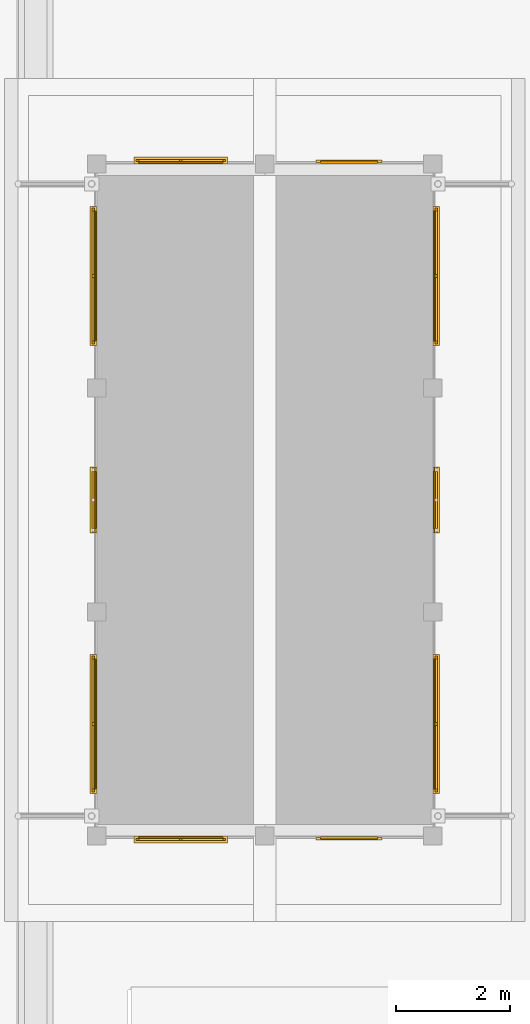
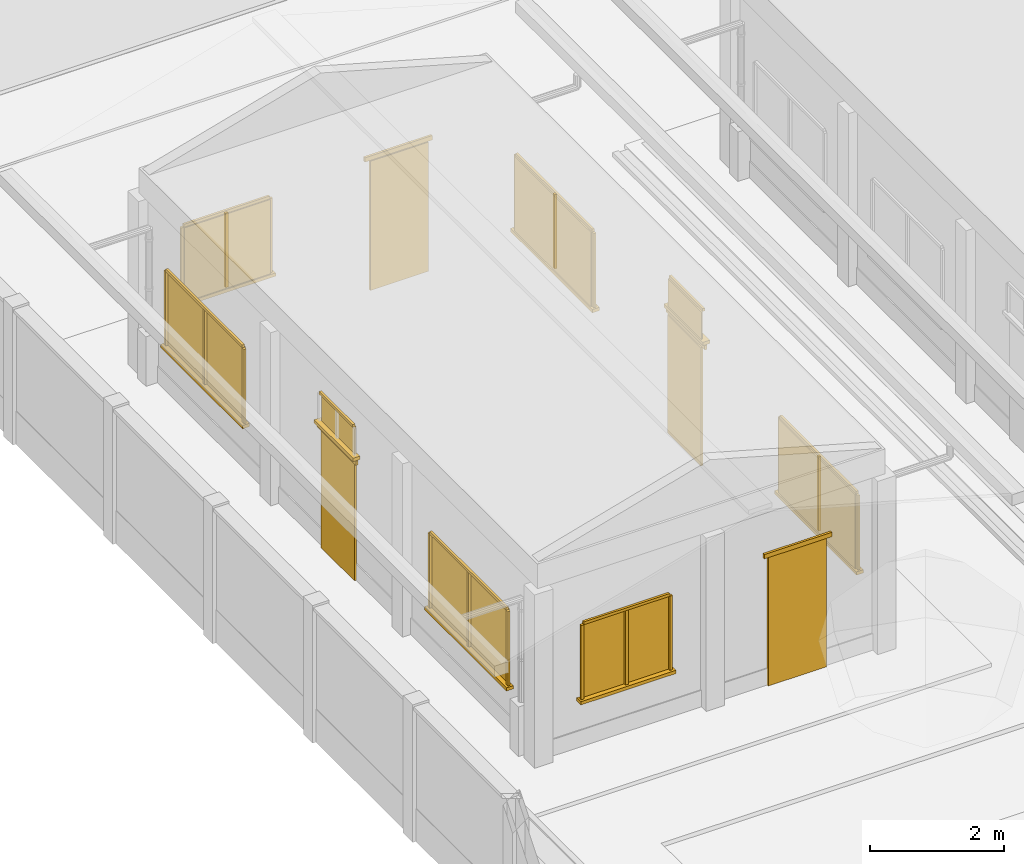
# One storey, part 55 of 177: 42 windows, 8 doors.
"""IFC4 building model written with IfcOpenShell, lengths in metres."""

from ifc_helpers import new_model, si_unit, origin, origin_with_axes, place, context, subcontext, project, spatial, triangles, element, save


model = new_model("IFC4")

# Units and contexts
model_context = context("Model", 3, precision=1e-05, world=origin_with_axes())
body_context = subcontext(model_context, "Body", "Model", "MODEL_VIEW")
ifc_project = project(units=[si_unit("LENGTHUNIT", "METRE"), si_unit("AREAUNIT", "SQUARE_METRE"), si_unit("VOLUMEUNIT", "CUBIC_METRE"), si_unit("PLANEANGLEUNIT", "RADIAN")], contexts=[model_context])

# Site, building, storey
site_placement = place(None, origin_with_axes())
site = spatial("IfcSite", under=ifc_project, at=site_placement, Name="Predio Los Mangos - Morales, San Martín", CompositionType="ELEMENT")
building_placement = place(site_placement, origin())
building = spatial("IfcBuilding", under=site, at=building_placement, Name="Hogar de Refugio Temporal", CompositionType="ELEMENT")
storey_placement = place(building_placement, origin())
storey = spatial("IfcBuildingStorey", under=building, at=storey_placement, Name="NIVEL 1 (NPT +0.00)", CompositionType="ELEMENT", Elevation=0.0)

# Windows
window_1_placement = place(storey_placement, origin())
element("IfcWindow", 1, at=window_1_placement, inside=storey, Name="E-09_vg0_vid", ObjectType="Ventana", PredefinedType="WINDOW", context=body_context, shape_type="Tessellation", body=[
    triangles([(4.2375, 75.16, 1.05), (5.7125, 75.16, 1.05), (5.7125, 75.18, 1.05), (4.2375, 75.18, 1.05), (4.2375, 75.16, 2.4), (5.7125, 75.16, 2.4), (5.7125, 75.18, 2.4), (4.2375, 75.18, 2.4)], [[1, 4, 3], [1, 3, 2], [5, 6, 7], [5, 7, 8], [1, 2, 6], [1, 6, 5], [2, 3, 7], [2, 7, 6], [3, 4, 8], [3, 8, 7], [4, 1, 5], [4, 5, 8]]),
])
window_2_placement = place(storey_placement, origin())
element("IfcWindow", 2, at=window_2_placement, inside=storey, Name="E-09_vg0_m", ObjectType="Ventana", PredefinedType="WINDOW", context=body_context, shape_type="Tessellation", body=[
    triangles([(4.1875, 75.12, 1.05), (4.2375, 75.12, 1.05), (4.2375, 75.16, 1.05), (4.1875, 75.16, 1.05), (4.1875, 75.12, 2.4), (4.2375, 75.12, 2.4), (4.2375, 75.16, 2.4), (4.1875, 75.16, 2.4)], [[1, 4, 3], [1, 3, 2], [5, 6, 7], [5, 7, 8], [1, 2, 6], [1, 6, 5], [2, 3, 7], [2, 7, 6], [3, 4, 8], [3, 8, 7], [4, 1, 5], [4, 5, 8]]),
])
window_3_placement = place(storey_placement, origin())
element("IfcWindow", 3, at=window_3_placement, inside=storey, Name="E-09_vg0_m", ObjectType="Ventana", PredefinedType="WINDOW", context=body_context, shape_type="Tessellation", body=[
    triangles([(5.7125, 75.12, 1.05), (5.7625, 75.12, 1.05), (5.7625, 75.16, 1.05), (5.7125, 75.16, 1.05), (5.7125, 75.12, 2.4), (5.7625, 75.12, 2.4), (5.7625, 75.16, 2.4), (5.7125, 75.16, 2.4)], [[1, 4, 3], [1, 3, 2], [5, 6, 7], [5, 7, 8], [1, 2, 6], [1, 6, 5], [2, 3, 7], [2, 7, 6], [3, 4, 8], [3, 8, 7], [4, 1, 5], [4, 5, 8]]),
])
window_4_placement = place(storey_placement, origin())
element("IfcWindow", 4, at=window_4_placement, inside=storey, Name="E-09_vg0_m", ObjectType="Ventana", PredefinedType="WINDOW", context=body_context, shape_type="Tessellation", body=[
    triangles([(4.2375, 75.12, 2.4), (5.7125, 75.12, 2.4), (5.7125, 75.16, 2.4), (4.2375, 75.16, 2.4), (4.2375, 75.12, 2.45), (5.7125, 75.12, 2.45), (5.7125, 75.16, 2.45), (4.2375, 75.16, 2.45)], [[1, 4, 3], [1, 3, 2], [5, 6, 7], [5, 7, 8], [1, 2, 6], [1, 6, 5], [2, 3, 7], [2, 7, 6], [3, 4, 8], [3, 8, 7], [4, 1, 5], [4, 5, 8]]),
])
window_5_placement = place(storey_placement, origin())
element("IfcWindow", 5, at=window_5_placement, inside=storey, Name="E-09_vg0_m", ObjectType="Ventana", PredefinedType="WINDOW", context=body_context, shape_type="Tessellation", body=[
    triangles([(4.95, 75.12, 1.05), (5.0, 75.12, 1.05), (5.0, 75.16, 1.05), (4.95, 75.16, 1.05), (4.95, 75.12, 2.4), (5.0, 75.12, 2.4), (5.0, 75.16, 2.4), (4.95, 75.16, 2.4)], [[1, 4, 3], [1, 3, 2], [5, 6, 7], [5, 7, 8], [1, 2, 6], [1, 6, 5], [2, 3, 7], [2, 7, 6], [3, 4, 8], [3, 8, 7], [4, 1, 5], [4, 5, 8]]),
])
window_6_placement = place(storey_placement, origin())
element("IfcWindow", 6, at=window_6_placement, inside=storey, Name="E-09_vg0_alf", ObjectType="Ventana", PredefinedType="WINDOW", context=body_context, shape_type="Tessellation", body=[
    triangles([(4.1575, 75.2, 0.99), (5.7925, 75.2, 0.99), (5.7925, 75.08, 0.99), (4.1575, 75.08, 0.99), (4.1575, 75.2, 1.05), (5.7925, 75.2, 1.05), (5.7925, 75.08, 1.05), (4.1575, 75.08, 1.05)], [[1, 4, 3], [1, 3, 2], [5, 6, 7], [5, 7, 8], [1, 2, 6], [1, 6, 5], [2, 3, 7], [2, 7, 6], [3, 4, 8], [3, 8, 7], [4, 1, 5], [4, 5, 8]]),
])

# Doors
door_1_placement = place(storey_placement, origin())
element("IfcDoor", 7, at=door_1_placement, inside=storey, Name="E-09_pp", ObjectType="Puerta", PredefinedType="DOOR", context=body_context, shape_type="Tessellation", body=[
    triangles([(7.425, 75.15, 0.15), (8.425, 75.15, 0.15), (8.425, 75.19, 0.15), (7.425, 75.19, 0.15), (7.425, 75.15, 2.5), (8.425, 75.15, 2.5), (8.425, 75.19, 2.5), (7.425, 75.19, 2.5)], [[1, 4, 3], [1, 3, 2], [5, 6, 7], [5, 7, 8], [1, 2, 6], [1, 6, 5], [2, 3, 7], [2, 7, 6], [3, 4, 8], [3, 8, 7], [4, 1, 5], [4, 5, 8]]),
])
door_2_placement = place(storey_placement, origin())
element("IfcDoor", 8, at=door_2_placement, inside=storey, Name="E-09_pp_marco", ObjectType="Puerta", PredefinedType="DOOR", context=body_context, shape_type="Tessellation", body=[
    triangles([(7.345, 75.13, 2.5), (8.505, 75.13, 2.5), (8.505, 75.17, 2.5), (7.345, 75.17, 2.5), (7.345, 75.13, 2.58), (8.505, 75.13, 2.58), (8.505, 75.17, 2.58), (7.345, 75.17, 2.58)], [[1, 4, 3], [1, 3, 2], [5, 6, 7], [5, 7, 8], [1, 2, 6], [1, 6, 5], [2, 3, 7], [2, 7, 6], [3, 4, 8], [3, 8, 7], [4, 1, 5], [4, 5, 8]]),
])

# Windows
window_7_placement = place(storey_placement, origin())
element("IfcWindow", 9, at=window_7_placement, inside=storey, Name="E-09_vg0_vid", ObjectType="Ventana", PredefinedType="WINDOW", context=body_context, shape_type="Tessellation", body=[
    triangles([(4.2375, 87.02, 1.05), (5.7125, 87.02, 1.05), (5.7125, 87.04, 1.05), (4.2375, 87.04, 1.05), (4.2375, 87.02, 2.4), (5.7125, 87.02, 2.4), (5.7125, 87.04, 2.4), (4.2375, 87.04, 2.4)], [[1, 4, 3], [1, 3, 2], [5, 6, 7], [5, 7, 8], [1, 2, 6], [1, 6, 5], [2, 3, 7], [2, 7, 6], [3, 4, 8], [3, 8, 7], [4, 1, 5], [4, 5, 8]]),
])
window_8_placement = place(storey_placement, origin())
element("IfcWindow", 10, at=window_8_placement, inside=storey, Name="E-09_vg0_m", ObjectType="Ventana", PredefinedType="WINDOW", context=body_context, shape_type="Tessellation", body=[
    triangles([(4.1875, 87.04, 1.05), (4.2375, 87.04, 1.05), (4.2375, 87.08, 1.05), (4.1875, 87.08, 1.05), (4.1875, 87.04, 2.4), (4.2375, 87.04, 2.4), (4.2375, 87.08, 2.4), (4.1875, 87.08, 2.4)], [[1, 4, 3], [1, 3, 2], [5, 6, 7], [5, 7, 8], [1, 2, 6], [1, 6, 5], [2, 3, 7], [2, 7, 6], [3, 4, 8], [3, 8, 7], [4, 1, 5], [4, 5, 8]]),
])
window_9_placement = place(storey_placement, origin())
element("IfcWindow", 11, at=window_9_placement, inside=storey, Name="E-09_vg0_m", ObjectType="Ventana", PredefinedType="WINDOW", context=body_context, shape_type="Tessellation", body=[
    triangles([(5.7125, 87.04, 1.05), (5.7625, 87.04, 1.05), (5.7625, 87.08, 1.05), (5.7125, 87.08, 1.05), (5.7125, 87.04, 2.4), (5.7625, 87.04, 2.4), (5.7625, 87.08, 2.4), (5.7125, 87.08, 2.4)], [[1, 4, 3], [1, 3, 2], [5, 6, 7], [5, 7, 8], [1, 2, 6], [1, 6, 5], [2, 3, 7], [2, 7, 6], [3, 4, 8], [3, 8, 7], [4, 1, 5], [4, 5, 8]]),
])
window_10_placement = place(storey_placement, origin())
element("IfcWindow", 12, at=window_10_placement, inside=storey, Name="E-09_vg0_m", ObjectType="Ventana", PredefinedType="WINDOW", context=body_context, shape_type="Tessellation", body=[
    triangles([(4.2375, 87.04, 2.4), (5.7125, 87.04, 2.4), (5.7125, 87.08, 2.4), (4.2375, 87.08, 2.4), (4.2375, 87.04, 2.45), (5.7125, 87.04, 2.45), (5.7125, 87.08, 2.45), (4.2375, 87.08, 2.45)], [[1, 4, 3], [1, 3, 2], [5, 6, 7], [5, 7, 8], [1, 2, 6], [1, 6, 5], [2, 3, 7], [2, 7, 6], [3, 4, 8], [3, 8, 7], [4, 1, 5], [4, 5, 8]]),
])
window_11_placement = place(storey_placement, origin())
element("IfcWindow", 13, at=window_11_placement, inside=storey, Name="E-09_vg0_m", ObjectType="Ventana", PredefinedType="WINDOW", context=body_context, shape_type="Tessellation", body=[
    triangles([(4.95, 87.04, 1.05), (5.0, 87.04, 1.05), (5.0, 87.08, 1.05), (4.95, 87.08, 1.05), (4.95, 87.04, 2.4), (5.0, 87.04, 2.4), (5.0, 87.08, 2.4), (4.95, 87.08, 2.4)], [[1, 4, 3], [1, 3, 2], [5, 6, 7], [5, 7, 8], [1, 2, 6], [1, 6, 5], [2, 3, 7], [2, 7, 6], [3, 4, 8], [3, 8, 7], [4, 1, 5], [4, 5, 8]]),
])
window_12_placement = place(storey_placement, origin())
element("IfcWindow", 14, at=window_12_placement, inside=storey, Name="E-09_vg0_alf", ObjectType="Ventana", PredefinedType="WINDOW", context=body_context, shape_type="Tessellation", body=[
    triangles([(4.1575, 87.0, 0.99), (5.7925, 87.0, 0.99), (5.7925, 87.12, 0.99), (4.1575, 87.12, 0.99), (4.1575, 87.0, 1.05), (5.7925, 87.0, 1.05), (5.7925, 87.12, 1.05), (4.1575, 87.12, 1.05)], [[1, 4, 3], [1, 3, 2], [5, 6, 7], [5, 7, 8], [1, 2, 6], [1, 6, 5], [2, 3, 7], [2, 7, 6], [3, 4, 8], [3, 8, 7], [4, 1, 5], [4, 5, 8]]),
])

# Doors
door_3_placement = place(storey_placement, origin())
element("IfcDoor", 15, at=door_3_placement, inside=storey, Name="E-09_pp", ObjectType="Puerta", PredefinedType="DOOR", context=body_context, shape_type="Tessellation", body=[
    triangles([(7.425, 87.01, 0.15), (8.425, 87.01, 0.15), (8.425, 87.05, 0.15), (7.425, 87.05, 0.15), (7.425, 87.01, 2.5), (8.425, 87.01, 2.5), (8.425, 87.05, 2.5), (7.425, 87.05, 2.5)], [[1, 4, 3], [1, 3, 2], [5, 6, 7], [5, 7, 8], [1, 2, 6], [1, 6, 5], [2, 3, 7], [2, 7, 6], [3, 4, 8], [3, 8, 7], [4, 1, 5], [4, 5, 8]]),
])
door_4_placement = place(storey_placement, origin())
element("IfcDoor", 16, at=door_4_placement, inside=storey, Name="E-09_pp_marco", ObjectType="Puerta", PredefinedType="DOOR", context=body_context, shape_type="Tessellation", body=[
    triangles([(7.345, 87.03, 2.5), (8.505, 87.03, 2.5), (8.505, 87.07, 2.5), (7.345, 87.07, 2.5), (7.345, 87.03, 2.58), (8.505, 87.03, 2.58), (8.505, 87.07, 2.58), (7.345, 87.07, 2.58)], [[1, 4, 3], [1, 3, 2], [5, 6, 7], [5, 7, 8], [1, 2, 6], [1, 6, 5], [2, 3, 7], [2, 7, 6], [3, 4, 8], [3, 8, 7], [4, 1, 5], [4, 5, 8]]),
])

# Windows
window_13_placement = place(storey_placement, origin())
element("IfcWindow", 17, at=window_13_placement, inside=storey, Name="E-09_v0_vid", ObjectType="Ventana", PredefinedType="WINDOW", context=body_context, shape_type="Tessellation", body=[
    triangles([(3.46, 76.026, 1.05), (3.48, 76.026, 1.05), (3.48, 78.3073, 1.05), (3.46, 78.3073, 1.05), (3.46, 76.026, 2.4), (3.48, 76.026, 2.4), (3.48, 78.3073, 2.4), (3.46, 78.3073, 2.4)], [[1, 4, 3], [1, 3, 2], [5, 6, 7], [5, 7, 8], [1, 2, 6], [1, 6, 5], [2, 3, 7], [2, 7, 6], [3, 4, 8], [3, 8, 7], [4, 1, 5], [4, 5, 8]]),
])
window_14_placement = place(storey_placement, origin())
element("IfcWindow", 18, at=window_14_placement, inside=storey, Name="E-09_v0_m", ObjectType="Ventana", PredefinedType="WINDOW", context=body_context, shape_type="Tessellation", body=[
    triangles([(3.42, 75.976, 1.05), (3.46, 75.976, 1.05), (3.46, 76.026, 1.05), (3.42, 76.026, 1.05), (3.42, 75.976, 2.4), (3.46, 75.976, 2.4), (3.46, 76.026, 2.4), (3.42, 76.026, 2.4)], [[1, 4, 3], [1, 3, 2], [5, 6, 7], [5, 7, 8], [1, 2, 6], [1, 6, 5], [2, 3, 7], [2, 7, 6], [3, 4, 8], [3, 8, 7], [4, 1, 5], [4, 5, 8]]),
])
window_15_placement = place(storey_placement, origin())
element("IfcWindow", 19, at=window_15_placement, inside=storey, Name="E-09_v0_m", ObjectType="Ventana", PredefinedType="WINDOW", context=body_context, shape_type="Tessellation", body=[
    triangles([(3.42, 78.3073, 1.05), (3.46, 78.3073, 1.05), (3.46, 78.3573, 1.05), (3.42, 78.3573, 1.05), (3.42, 78.3073, 2.4), (3.46, 78.3073, 2.4), (3.46, 78.3573, 2.4), (3.42, 78.3573, 2.4)], [[1, 4, 3], [1, 3, 2], [5, 6, 7], [5, 7, 8], [1, 2, 6], [1, 6, 5], [2, 3, 7], [2, 7, 6], [3, 4, 8], [3, 8, 7], [4, 1, 5], [4, 5, 8]]),
])
window_16_placement = place(storey_placement, origin())
element("IfcWindow", 20, at=window_16_placement, inside=storey, Name="E-09_v0_m", ObjectType="Ventana", PredefinedType="WINDOW", context=body_context, shape_type="Tessellation", body=[
    triangles([(3.42, 76.026, 2.4), (3.46, 76.026, 2.4), (3.46, 78.3073, 2.4), (3.42, 78.3073, 2.4), (3.42, 76.026, 2.45), (3.46, 76.026, 2.45), (3.46, 78.3073, 2.45), (3.42, 78.3073, 2.45)], [[1, 4, 3], [1, 3, 2], [5, 6, 7], [5, 7, 8], [1, 2, 6], [1, 6, 5], [2, 3, 7], [2, 7, 6], [3, 4, 8], [3, 8, 7], [4, 1, 5], [4, 5, 8]]),
])
window_17_placement = place(storey_placement, origin())
element("IfcWindow", 21, at=window_17_placement, inside=storey, Name="E-09_v0_m", ObjectType="Ventana", PredefinedType="WINDOW", context=body_context, shape_type="Tessellation", body=[
    triangles([(3.42, 77.1417, 1.05), (3.46, 77.1417, 1.05), (3.46, 77.1917, 1.05), (3.42, 77.1917, 1.05), (3.42, 77.1417, 2.4), (3.46, 77.1417, 2.4), (3.46, 77.1917, 2.4), (3.42, 77.1917, 2.4)], [[1, 4, 3], [1, 3, 2], [5, 6, 7], [5, 7, 8], [1, 2, 6], [1, 6, 5], [2, 3, 7], [2, 7, 6], [3, 4, 8], [3, 8, 7], [4, 1, 5], [4, 5, 8]]),
])
window_18_placement = place(storey_placement, origin())
element("IfcWindow", 22, at=window_18_placement, inside=storey, Name="E-09_v0_alf", ObjectType="Ventana", PredefinedType="WINDOW", context=body_context, shape_type="Tessellation", body=[
    triangles([(3.5, 75.946, 0.99), (3.38, 75.946, 0.99), (3.38, 78.3873, 0.99), (3.5, 78.3873, 0.99), (3.5, 75.946, 1.05), (3.38, 75.946, 1.05), (3.38, 78.3873, 1.05), (3.5, 78.3873, 1.05)], [[1, 4, 3], [1, 3, 2], [5, 6, 7], [5, 7, 8], [1, 2, 6], [1, 6, 5], [2, 3, 7], [2, 7, 6], [3, 4, 8], [3, 8, 7], [4, 1, 5], [4, 5, 8]]),
])

# Doors
door_5_placement = place(storey_placement, origin())
element("IfcDoor", 23, at=door_5_placement, inside=storey, Name="E-09_p1", ObjectType="Puerta", PredefinedType="DOOR", context=body_context, shape_type="Tessellation", body=[
    triangles([(3.45, 80.6, 0.15), (3.49, 80.6, 0.15), (3.49, 81.6, 0.15), (3.45, 81.6, 0.15), (3.45, 80.6, 2.3), (3.49, 80.6, 2.3), (3.49, 81.6, 2.3), (3.45, 81.6, 2.3)], [[1, 4, 3], [1, 3, 2], [5, 6, 7], [5, 7, 8], [1, 2, 6], [1, 6, 5], [2, 3, 7], [2, 7, 6], [3, 4, 8], [3, 8, 7], [4, 1, 5], [4, 5, 8]]),
])
door_6_placement = place(storey_placement, origin())
element("IfcDoor", 24, at=door_6_placement, inside=storey, Name="E-09_p1_marco", ObjectType="Puerta", PredefinedType="DOOR", context=body_context, shape_type="Tessellation", body=[
    triangles([(3.43, 80.52, 2.3), (3.47, 80.52, 2.3), (3.47, 81.68, 2.3), (3.43, 81.68, 2.3), (3.43, 80.52, 2.38), (3.47, 80.52, 2.38), (3.47, 81.68, 2.38), (3.43, 81.68, 2.38)], [[1, 4, 3], [1, 3, 2], [5, 6, 7], [5, 7, 8], [1, 2, 6], [1, 6, 5], [2, 3, 7], [2, 7, 6], [3, 4, 8], [3, 8, 7], [4, 1, 5], [4, 5, 8]]),
])

# Windows
window_19_placement = place(storey_placement, origin())
element("IfcWindow", 25, at=window_19_placement, inside=storey, Name="E-09_vt1_vid", ObjectType="Ventana", PredefinedType="WINDOW", context=body_context, shape_type="Tessellation", body=[
    triangles([(3.46, 80.6, 2.45), (3.48, 80.6, 2.45), (3.48, 81.6, 2.45), (3.46, 81.6, 2.45), (3.46, 80.6, 2.95), (3.48, 80.6, 2.95), (3.48, 81.6, 2.95), (3.46, 81.6, 2.95)], [[1, 4, 3], [1, 3, 2], [5, 6, 7], [5, 7, 8], [1, 2, 6], [1, 6, 5], [2, 3, 7], [2, 7, 6], [3, 4, 8], [3, 8, 7], [4, 1, 5], [4, 5, 8]]),
])
window_20_placement = place(storey_placement, origin())
element("IfcWindow", 26, at=window_20_placement, inside=storey, Name="E-09_vt1_m", ObjectType="Ventana", PredefinedType="WINDOW", context=body_context, shape_type="Tessellation", body=[
    triangles([(3.42, 80.6, 2.95), (3.46, 80.6, 2.95), (3.46, 81.6, 2.95), (3.42, 81.6, 2.95), (3.42, 80.6, 3.0), (3.46, 80.6, 3.0), (3.46, 81.6, 3.0), (3.42, 81.6, 3.0)], [[1, 4, 3], [1, 3, 2], [5, 6, 7], [5, 7, 8], [1, 2, 6], [1, 6, 5], [2, 3, 7], [2, 7, 6], [3, 4, 8], [3, 8, 7], [4, 1, 5], [4, 5, 8]]),
])
window_21_placement = place(storey_placement, origin())
element("IfcWindow", 27, at=window_21_placement, inside=storey, Name="E-09_vt1_alf", ObjectType="Ventana", PredefinedType="WINDOW", context=body_context, shape_type="Tessellation", body=[
    triangles([(3.5, 80.52, 2.39), (3.38, 80.52, 2.39), (3.38, 81.68, 2.39), (3.5, 81.68, 2.39), (3.5, 80.52, 2.45), (3.38, 80.52, 2.45), (3.38, 81.68, 2.45), (3.5, 81.68, 2.45)], [[1, 4, 3], [1, 3, 2], [5, 6, 7], [5, 7, 8], [1, 2, 6], [1, 6, 5], [2, 3, 7], [2, 7, 6], [3, 4, 8], [3, 8, 7], [4, 1, 5], [4, 5, 8]]),
])
window_22_placement = place(storey_placement, origin())
element("IfcWindow", 28, at=window_22_placement, inside=storey, Name="E-09_v2_vid", ObjectType="Ventana", PredefinedType="WINDOW", context=body_context, shape_type="Tessellation", body=[
    triangles([(3.46, 83.8927, 1.05), (3.48, 83.8927, 1.05), (3.48, 86.174, 1.05), (3.46, 86.174, 1.05), (3.46, 83.8927, 2.4), (3.48, 83.8927, 2.4), (3.48, 86.174, 2.4), (3.46, 86.174, 2.4)], [[1, 4, 3], [1, 3, 2], [5, 6, 7], [5, 7, 8], [1, 2, 6], [1, 6, 5], [2, 3, 7], [2, 7, 6], [3, 4, 8], [3, 8, 7], [4, 1, 5], [4, 5, 8]]),
])
window_23_placement = place(storey_placement, origin())
element("IfcWindow", 29, at=window_23_placement, inside=storey, Name="E-09_v2_m", ObjectType="Ventana", PredefinedType="WINDOW", context=body_context, shape_type="Tessellation", body=[
    triangles([(3.42, 83.8427, 1.05), (3.46, 83.8427, 1.05), (3.46, 83.8927, 1.05), (3.42, 83.8927, 1.05), (3.42, 83.8427, 2.4), (3.46, 83.8427, 2.4), (3.46, 83.8927, 2.4), (3.42, 83.8927, 2.4)], [[1, 4, 3], [1, 3, 2], [5, 6, 7], [5, 7, 8], [1, 2, 6], [1, 6, 5], [2, 3, 7], [2, 7, 6], [3, 4, 8], [3, 8, 7], [4, 1, 5], [4, 5, 8]]),
])
window_24_placement = place(storey_placement, origin())
element("IfcWindow", 30, at=window_24_placement, inside=storey, Name="E-09_v2_m", ObjectType="Ventana", PredefinedType="WINDOW", context=body_context, shape_type="Tessellation", body=[
    triangles([(3.42, 86.174, 1.05), (3.46, 86.174, 1.05), (3.46, 86.224, 1.05), (3.42, 86.224, 1.05), (3.42, 86.174, 2.4), (3.46, 86.174, 2.4), (3.46, 86.224, 2.4), (3.42, 86.224, 2.4)], [[1, 4, 3], [1, 3, 2], [5, 6, 7], [5, 7, 8], [1, 2, 6], [1, 6, 5], [2, 3, 7], [2, 7, 6], [3, 4, 8], [3, 8, 7], [4, 1, 5], [4, 5, 8]]),
])
window_25_placement = place(storey_placement, origin())
element("IfcWindow", 31, at=window_25_placement, inside=storey, Name="E-09_v2_m", ObjectType="Ventana", PredefinedType="WINDOW", context=body_context, shape_type="Tessellation", body=[
    triangles([(3.42, 83.8927, 2.4), (3.46, 83.8927, 2.4), (3.46, 86.174, 2.4), (3.42, 86.174, 2.4), (3.42, 83.8927, 2.45), (3.46, 83.8927, 2.45), (3.46, 86.174, 2.45), (3.42, 86.174, 2.45)], [[1, 4, 3], [1, 3, 2], [5, 6, 7], [5, 7, 8], [1, 2, 6], [1, 6, 5], [2, 3, 7], [2, 7, 6], [3, 4, 8], [3, 8, 7], [4, 1, 5], [4, 5, 8]]),
])
window_26_placement = place(storey_placement, origin())
element("IfcWindow", 32, at=window_26_placement, inside=storey, Name="E-09_v2_m", ObjectType="Ventana", PredefinedType="WINDOW", context=body_context, shape_type="Tessellation", body=[
    triangles([(3.42, 85.0083, 1.05), (3.46, 85.0083, 1.05), (3.46, 85.0583, 1.05), (3.42, 85.0583, 1.05), (3.42, 85.0083, 2.4), (3.46, 85.0083, 2.4), (3.46, 85.0583, 2.4), (3.42, 85.0583, 2.4)], [[1, 4, 3], [1, 3, 2], [5, 6, 7], [5, 7, 8], [1, 2, 6], [1, 6, 5], [2, 3, 7], [2, 7, 6], [3, 4, 8], [3, 8, 7], [4, 1, 5], [4, 5, 8]]),
])
window_27_placement = place(storey_placement, origin())
element("IfcWindow", 33, at=window_27_placement, inside=storey, Name="E-09_v2_alf", ObjectType="Ventana", PredefinedType="WINDOW", context=body_context, shape_type="Tessellation", body=[
    triangles([(3.5, 83.8127, 0.99), (3.38, 83.8127, 0.99), (3.38, 86.254, 0.99), (3.5, 86.254, 0.99), (3.5, 83.8127, 1.05), (3.38, 83.8127, 1.05), (3.38, 86.254, 1.05), (3.5, 86.254, 1.05)], [[1, 4, 3], [1, 3, 2], [5, 6, 7], [5, 7, 8], [1, 2, 6], [1, 6, 5], [2, 3, 7], [2, 7, 6], [3, 4, 8], [3, 8, 7], [4, 1, 5], [4, 5, 8]]),
])
window_28_placement = place(storey_placement, origin())
element("IfcWindow", 34, at=window_28_placement, inside=storey, Name="E-09_v0_vid", ObjectType="Ventana", PredefinedType="WINDOW", context=body_context, shape_type="Tessellation", body=[
    triangles([(9.42, 76.026, 1.05), (9.44, 76.026, 1.05), (9.44, 78.3073, 1.05), (9.42, 78.3073, 1.05), (9.42, 76.026, 2.4), (9.44, 76.026, 2.4), (9.44, 78.3073, 2.4), (9.42, 78.3073, 2.4)], [[1, 4, 3], [1, 3, 2], [5, 6, 7], [5, 7, 8], [1, 2, 6], [1, 6, 5], [2, 3, 7], [2, 7, 6], [3, 4, 8], [3, 8, 7], [4, 1, 5], [4, 5, 8]]),
])
window_29_placement = place(storey_placement, origin())
element("IfcWindow", 35, at=window_29_placement, inside=storey, Name="E-09_v0_m", ObjectType="Ventana", PredefinedType="WINDOW", context=body_context, shape_type="Tessellation", body=[
    triangles([(9.44, 75.976, 1.05), (9.48, 75.976, 1.05), (9.48, 76.026, 1.05), (9.44, 76.026, 1.05), (9.44, 75.976, 2.4), (9.48, 75.976, 2.4), (9.48, 76.026, 2.4), (9.44, 76.026, 2.4)], [[1, 4, 3], [1, 3, 2], [5, 6, 7], [5, 7, 8], [1, 2, 6], [1, 6, 5], [2, 3, 7], [2, 7, 6], [3, 4, 8], [3, 8, 7], [4, 1, 5], [4, 5, 8]]),
])
window_30_placement = place(storey_placement, origin())
element("IfcWindow", 36, at=window_30_placement, inside=storey, Name="E-09_v0_m", ObjectType="Ventana", PredefinedType="WINDOW", context=body_context, shape_type="Tessellation", body=[
    triangles([(9.44, 78.3073, 1.05), (9.48, 78.3073, 1.05), (9.48, 78.3573, 1.05), (9.44, 78.3573, 1.05), (9.44, 78.3073, 2.4), (9.48, 78.3073, 2.4), (9.48, 78.3573, 2.4), (9.44, 78.3573, 2.4)], [[1, 4, 3], [1, 3, 2], [5, 6, 7], [5, 7, 8], [1, 2, 6], [1, 6, 5], [2, 3, 7], [2, 7, 6], [3, 4, 8], [3, 8, 7], [4, 1, 5], [4, 5, 8]]),
])
window_31_placement = place(storey_placement, origin())
element("IfcWindow", 37, at=window_31_placement, inside=storey, Name="E-09_v0_m", ObjectType="Ventana", PredefinedType="WINDOW", context=body_context, shape_type="Tessellation", body=[
    triangles([(9.44, 76.026, 2.4), (9.48, 76.026, 2.4), (9.48, 78.3073, 2.4), (9.44, 78.3073, 2.4), (9.44, 76.026, 2.45), (9.48, 76.026, 2.45), (9.48, 78.3073, 2.45), (9.44, 78.3073, 2.45)], [[1, 4, 3], [1, 3, 2], [5, 6, 7], [5, 7, 8], [1, 2, 6], [1, 6, 5], [2, 3, 7], [2, 7, 6], [3, 4, 8], [3, 8, 7], [4, 1, 5], [4, 5, 8]]),
])
window_32_placement = place(storey_placement, origin())
element("IfcWindow", 38, at=window_32_placement, inside=storey, Name="E-09_v0_m", ObjectType="Ventana", PredefinedType="WINDOW", context=body_context, shape_type="Tessellation", body=[
    triangles([(9.44, 77.1417, 1.05), (9.48, 77.1417, 1.05), (9.48, 77.1917, 1.05), (9.44, 77.1917, 1.05), (9.44, 77.1417, 2.4), (9.48, 77.1417, 2.4), (9.48, 77.1917, 2.4), (9.44, 77.1917, 2.4)], [[1, 4, 3], [1, 3, 2], [5, 6, 7], [5, 7, 8], [1, 2, 6], [1, 6, 5], [2, 3, 7], [2, 7, 6], [3, 4, 8], [3, 8, 7], [4, 1, 5], [4, 5, 8]]),
])
window_33_placement = place(storey_placement, origin())
element("IfcWindow", 39, at=window_33_placement, inside=storey, Name="E-09_v0_alf", ObjectType="Ventana", PredefinedType="WINDOW", context=body_context, shape_type="Tessellation", body=[
    triangles([(9.4, 75.946, 0.99), (9.52, 75.946, 0.99), (9.52, 78.3873, 0.99), (9.4, 78.3873, 0.99), (9.4, 75.946, 1.05), (9.52, 75.946, 1.05), (9.52, 78.3873, 1.05), (9.4, 78.3873, 1.05)], [[1, 4, 3], [1, 3, 2], [5, 6, 7], [5, 7, 8], [1, 2, 6], [1, 6, 5], [2, 3, 7], [2, 7, 6], [3, 4, 8], [3, 8, 7], [4, 1, 5], [4, 5, 8]]),
])

# Doors
door_7_placement = place(storey_placement, origin())
element("IfcDoor", 40, at=door_7_placement, inside=storey, Name="E-09_p1", ObjectType="Puerta", PredefinedType="DOOR", context=body_context, shape_type="Tessellation", body=[
    triangles([(9.41, 80.6, 0.15), (9.45, 80.6, 0.15), (9.45, 81.6, 0.15), (9.41, 81.6, 0.15), (9.41, 80.6, 2.3), (9.45, 80.6, 2.3), (9.45, 81.6, 2.3), (9.41, 81.6, 2.3)], [[1, 4, 3], [1, 3, 2], [5, 6, 7], [5, 7, 8], [1, 2, 6], [1, 6, 5], [2, 3, 7], [2, 7, 6], [3, 4, 8], [3, 8, 7], [4, 1, 5], [4, 5, 8]]),
])
door_8_placement = place(storey_placement, origin())
element("IfcDoor", 41, at=door_8_placement, inside=storey, Name="E-09_p1_marco", ObjectType="Puerta", PredefinedType="DOOR", context=body_context, shape_type="Tessellation", body=[
    triangles([(9.43, 80.52, 2.3), (9.47, 80.52, 2.3), (9.47, 81.68, 2.3), (9.43, 81.68, 2.3), (9.43, 80.52, 2.38), (9.47, 80.52, 2.38), (9.47, 81.68, 2.38), (9.43, 81.68, 2.38)], [[1, 4, 3], [1, 3, 2], [5, 6, 7], [5, 7, 8], [1, 2, 6], [1, 6, 5], [2, 3, 7], [2, 7, 6], [3, 4, 8], [3, 8, 7], [4, 1, 5], [4, 5, 8]]),
])

# Windows
window_34_placement = place(storey_placement, origin())
element("IfcWindow", 42, at=window_34_placement, inside=storey, Name="E-09_vt1_vid", ObjectType="Ventana", PredefinedType="WINDOW", context=body_context, shape_type="Tessellation", body=[
    triangles([(9.42, 80.6, 2.45), (9.44, 80.6, 2.45), (9.44, 81.6, 2.45), (9.42, 81.6, 2.45), (9.42, 80.6, 2.95), (9.44, 80.6, 2.95), (9.44, 81.6, 2.95), (9.42, 81.6, 2.95)], [[1, 4, 3], [1, 3, 2], [5, 6, 7], [5, 7, 8], [1, 2, 6], [1, 6, 5], [2, 3, 7], [2, 7, 6], [3, 4, 8], [3, 8, 7], [4, 1, 5], [4, 5, 8]]),
])
window_35_placement = place(storey_placement, origin())
element("IfcWindow", 43, at=window_35_placement, inside=storey, Name="E-09_vt1_m", ObjectType="Ventana", PredefinedType="WINDOW", context=body_context, shape_type="Tessellation", body=[
    triangles([(9.44, 80.6, 2.95), (9.48, 80.6, 2.95), (9.48, 81.6, 2.95), (9.44, 81.6, 2.95), (9.44, 80.6, 3.0), (9.48, 80.6, 3.0), (9.48, 81.6, 3.0), (9.44, 81.6, 3.0)], [[1, 4, 3], [1, 3, 2], [5, 6, 7], [5, 7, 8], [1, 2, 6], [1, 6, 5], [2, 3, 7], [2, 7, 6], [3, 4, 8], [3, 8, 7], [4, 1, 5], [4, 5, 8]]),
])
window_36_placement = place(storey_placement, origin())
element("IfcWindow", 44, at=window_36_placement, inside=storey, Name="E-09_vt1_alf", ObjectType="Ventana", PredefinedType="WINDOW", context=body_context, shape_type="Tessellation", body=[
    triangles([(9.4, 80.52, 2.39), (9.52, 80.52, 2.39), (9.52, 81.68, 2.39), (9.4, 81.68, 2.39), (9.4, 80.52, 2.45), (9.52, 80.52, 2.45), (9.52, 81.68, 2.45), (9.4, 81.68, 2.45)], [[1, 4, 3], [1, 3, 2], [5, 6, 7], [5, 7, 8], [1, 2, 6], [1, 6, 5], [2, 3, 7], [2, 7, 6], [3, 4, 8], [3, 8, 7], [4, 1, 5], [4, 5, 8]]),
])
window_37_placement = place(storey_placement, origin())
element("IfcWindow", 45, at=window_37_placement, inside=storey, Name="E-09_v2_vid", ObjectType="Ventana", PredefinedType="WINDOW", context=body_context, shape_type="Tessellation", body=[
    triangles([(9.42, 83.8927, 1.05), (9.44, 83.8927, 1.05), (9.44, 86.174, 1.05), (9.42, 86.174, 1.05), (9.42, 83.8927, 2.4), (9.44, 83.8927, 2.4), (9.44, 86.174, 2.4), (9.42, 86.174, 2.4)], [[1, 4, 3], [1, 3, 2], [5, 6, 7], [5, 7, 8], [1, 2, 6], [1, 6, 5], [2, 3, 7], [2, 7, 6], [3, 4, 8], [3, 8, 7], [4, 1, 5], [4, 5, 8]]),
])
window_38_placement = place(storey_placement, origin())
element("IfcWindow", 46, at=window_38_placement, inside=storey, Name="E-09_v2_m", ObjectType="Ventana", PredefinedType="WINDOW", context=body_context, shape_type="Tessellation", body=[
    triangles([(9.44, 83.8427, 1.05), (9.48, 83.8427, 1.05), (9.48, 83.8927, 1.05), (9.44, 83.8927, 1.05), (9.44, 83.8427, 2.4), (9.48, 83.8427, 2.4), (9.48, 83.8927, 2.4), (9.44, 83.8927, 2.4)], [[1, 4, 3], [1, 3, 2], [5, 6, 7], [5, 7, 8], [1, 2, 6], [1, 6, 5], [2, 3, 7], [2, 7, 6], [3, 4, 8], [3, 8, 7], [4, 1, 5], [4, 5, 8]]),
])
window_39_placement = place(storey_placement, origin())
element("IfcWindow", 47, at=window_39_placement, inside=storey, Name="E-09_v2_m", ObjectType="Ventana", PredefinedType="WINDOW", context=body_context, shape_type="Tessellation", body=[
    triangles([(9.44, 86.174, 1.05), (9.48, 86.174, 1.05), (9.48, 86.224, 1.05), (9.44, 86.224, 1.05), (9.44, 86.174, 2.4), (9.48, 86.174, 2.4), (9.48, 86.224, 2.4), (9.44, 86.224, 2.4)], [[1, 4, 3], [1, 3, 2], [5, 6, 7], [5, 7, 8], [1, 2, 6], [1, 6, 5], [2, 3, 7], [2, 7, 6], [3, 4, 8], [3, 8, 7], [4, 1, 5], [4, 5, 8]]),
])
window_40_placement = place(storey_placement, origin())
element("IfcWindow", 48, at=window_40_placement, inside=storey, Name="E-09_v2_m", ObjectType="Ventana", PredefinedType="WINDOW", context=body_context, shape_type="Tessellation", body=[
    triangles([(9.44, 83.8927, 2.4), (9.48, 83.8927, 2.4), (9.48, 86.174, 2.4), (9.44, 86.174, 2.4), (9.44, 83.8927, 2.45), (9.48, 83.8927, 2.45), (9.48, 86.174, 2.45), (9.44, 86.174, 2.45)], [[1, 4, 3], [1, 3, 2], [5, 6, 7], [5, 7, 8], [1, 2, 6], [1, 6, 5], [2, 3, 7], [2, 7, 6], [3, 4, 8], [3, 8, 7], [4, 1, 5], [4, 5, 8]]),
])
window_41_placement = place(storey_placement, origin())
element("IfcWindow", 49, at=window_41_placement, inside=storey, Name="E-09_v2_m", ObjectType="Ventana", PredefinedType="WINDOW", context=body_context, shape_type="Tessellation", body=[
    triangles([(9.44, 85.0083, 1.05), (9.48, 85.0083, 1.05), (9.48, 85.0583, 1.05), (9.44, 85.0583, 1.05), (9.44, 85.0083, 2.4), (9.48, 85.0083, 2.4), (9.48, 85.0583, 2.4), (9.44, 85.0583, 2.4)], [[1, 4, 3], [1, 3, 2], [5, 6, 7], [5, 7, 8], [1, 2, 6], [1, 6, 5], [2, 3, 7], [2, 7, 6], [3, 4, 8], [3, 8, 7], [4, 1, 5], [4, 5, 8]]),
])
window_42_placement = place(storey_placement, origin())
element("IfcWindow", 50, at=window_42_placement, inside=storey, Name="E-09_v2_alf", ObjectType="Ventana", PredefinedType="WINDOW", context=body_context, shape_type="Tessellation", body=[
    triangles([(9.4, 83.8127, 0.99), (9.52, 83.8127, 0.99), (9.52, 86.254, 0.99), (9.4, 86.254, 0.99), (9.4, 83.8127, 1.05), (9.52, 83.8127, 1.05), (9.52, 86.254, 1.05), (9.4, 86.254, 1.05)], [[1, 4, 3], [1, 3, 2], [5, 6, 7], [5, 7, 8], [1, 2, 6], [1, 6, 5], [2, 3, 7], [2, 7, 6], [3, 4, 8], [3, 8, 7], [4, 1, 5], [4, 5, 8]]),
])

save(model, "model.ifc")
